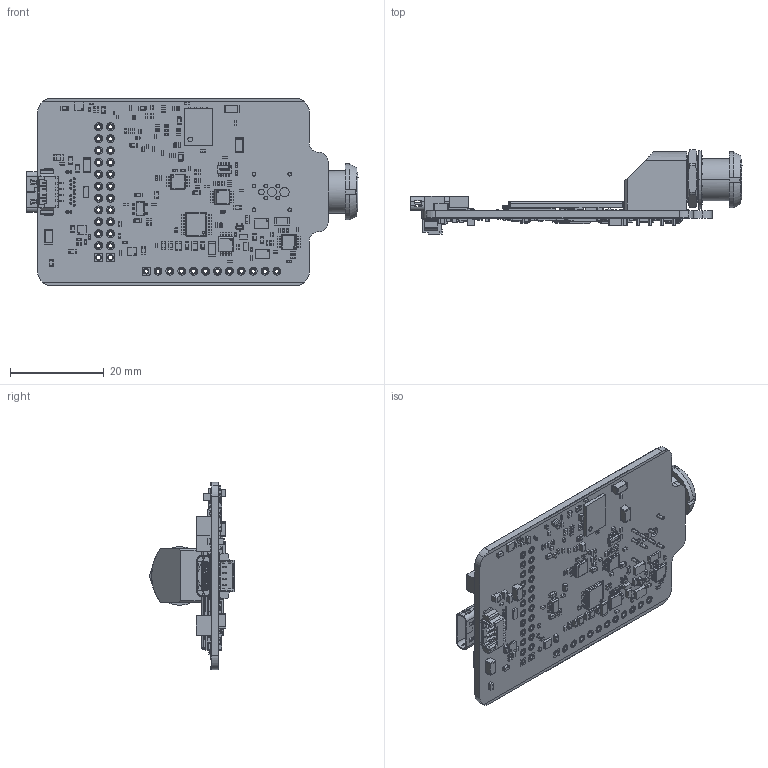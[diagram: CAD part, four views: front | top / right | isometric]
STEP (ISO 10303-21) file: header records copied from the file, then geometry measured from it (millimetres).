
FILE_DESCRIPTION (( 'STEP AP214' ), '1' );
FILE_NAME ('EmStat4M LR.STEP', '2021-09-29T07:34:20', ( '' ), ( '' ), 'SwSTEP 2.0', 'SolidWorks 2021', '' );
FILE_SCHEMA (( 'AUTOMOTIVE_DESIGN' ));
Length unit declared in the file: millimetre
Products named in the file (1): EmStat4M LR
Bounding box: 70.91 x 17.98 x 40 mm (x, y, z)
Surface area: 11562.7 mm2 (no closed solid volume)
Topology: 0 solids, 1151 shells, 5003 faces, 17921 edges, 13868 vertices
Faces by surface type: plane 3231, cylinder 1604, sphere 88, bspline 76, cone 4
Entity records: 251068 total; most frequent: CARTESIAN_POINT 49341, DIRECTION 30251, ORIENTED_EDGE 23402, EDGE_CURVE 17853, VERTEX_POINT 13868, VECTOR 12967, LINE 12967, AXIS2_PLACEMENT_3D 8642
